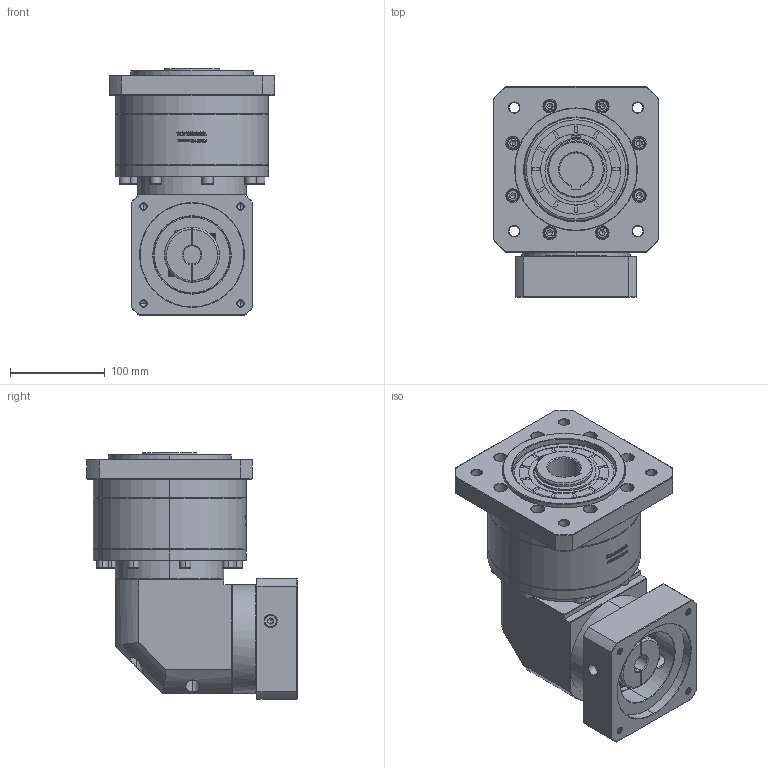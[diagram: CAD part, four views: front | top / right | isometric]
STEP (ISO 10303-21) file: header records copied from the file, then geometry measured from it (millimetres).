
FILE_DESCRIPTION (( 'STEP AP214' ), '1' );
FILE_NAME ('ZFR160A-K35-L2-19-110-145-M8.step', '2023-03-25T01:57:59', ( '' ), ( '' ), 'SwSTEP 2.0', 'SolidWorks 2016', '' );
FILE_SCHEMA (( 'AUTOMOTIVE_DESIGN' ));
Length unit declared in the file: millimetre
Products named in the file (1): ZFR160A-K35-L2-19-110-145-M8
Bounding box: 175 x 222.4 x 261.2 mm (x, y, z)
Volume: 4745102.3 mm3; surface area: 341067.6 mm2
Topology: 6 solids, 6 shells, 2724 faces, 7113 edges, 4561 vertices
Faces by surface type: plane 1366, bspline 491, cylinder 459, cone 364, torus 44
Entity records: 143645 total; most frequent: CARTESIAN_POINT 50896, ORIENTED_EDGE 14122, DIRECTION 11188, EDGE_CURVE 7061, VERTEX_POINT 4561, LINE 4442, VECTOR 4442, AXIS2_PLACEMENT_3D 3373
